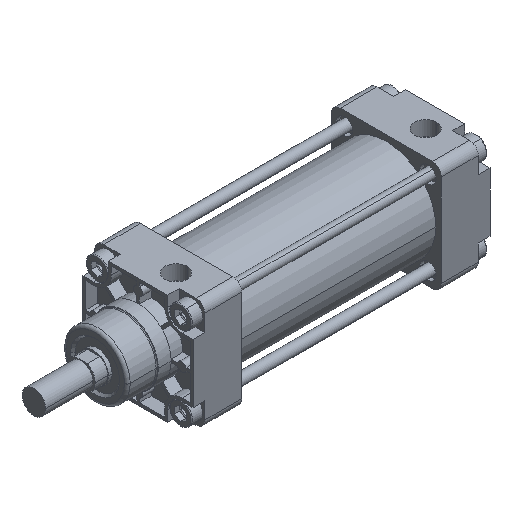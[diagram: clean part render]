
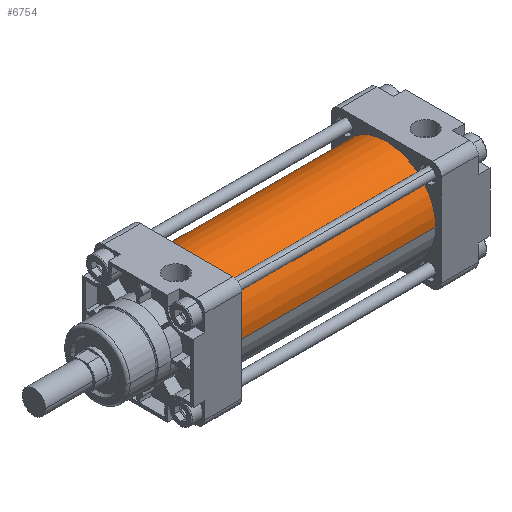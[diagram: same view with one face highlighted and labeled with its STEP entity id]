
A CAD part, isometric view. The second image highlights one B-rep face of the part: STEP entity #6754.
In plain terms, the highlighted cylindrical face has radius 33.5 mm (diameter 67 mm), a partial arc.
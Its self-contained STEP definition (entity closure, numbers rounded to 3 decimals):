
#6391=CARTESIAN_POINT('Vertex',(135.,-33.5,0.)) ;
#6393=CARTESIAN_POINT('Vertex',(135.,33.5,0.)) ;
#6396=CARTESIAN_POINT('Axis2P3D Location',(135.,0.,0.)) ;
#6724=CARTESIAN_POINT('Axis2P3D Location',(67.5,0.,0.)) ;
#6729=CARTESIAN_POINT('Line Origine',(67.5,33.5,0.)) ;
#6733=CARTESIAN_POINT('Vertex',(0.,33.5,0.)) ;
#6736=CARTESIAN_POINT('Axis2P3D Location',(0.,0.,0.)) ;
#6740=CARTESIAN_POINT('Vertex',(0.,-33.5,0.)) ;
#6743=CARTESIAN_POINT('Line Origine',(67.5,-33.5,0.)) ;
#6397=DIRECTION('Axis2P3D Direction',(1.,0.,0.)) ;
#6725=DIRECTION('Axis2P3D Direction',(1.,0.,0.)) ;
#6726=DIRECTION('Axis2P3D XDirection',(0.,1.,0.)) ;
#6730=DIRECTION('Vector Direction',(1.,0.,0.)) ;
#6737=DIRECTION('Axis2P3D Direction',(1.,0.,0.)) ;
#6744=DIRECTION('Vector Direction',(1.,0.,0.)) ;
#6398=AXIS2_PLACEMENT_3D('Circle Axis2P3D',#6396,#6397,$) ;
#6727=AXIS2_PLACEMENT_3D('Cylinder Axis2P3D',#6724,#6725,#6726) ;
#6738=AXIS2_PLACEMENT_3D('Circle Axis2P3D',#6736,#6737,$) ;
#6749=ORIENTED_EDGE('',*,*,#6735,.F.) ;
#6750=ORIENTED_EDGE('',*,*,#6742,.T.) ;
#6751=ORIENTED_EDGE('',*,*,#6747,.T.) ;
#6752=ORIENTED_EDGE('',*,*,#6400,.F.) ;
#6731=VECTOR('Line Direction',#6730,1.) ;
#6745=VECTOR('Line Direction',#6744,1.) ;
#6754=ADVANCED_FACE('PartBody',(#6753),#6728,.T.) ;
#6399=CIRCLE('generated circle',#6398,33.5) ;
#6739=CIRCLE('generated circle',#6738,33.5) ;
#6728=CYLINDRICAL_SURFACE('generated cylinder',#6727,33.5) ;
#6400=EDGE_CURVE('',#6394,#6392,#6399,.T.) ;
#6735=EDGE_CURVE('',#6734,#6394,#6732,.T.) ;
#6742=EDGE_CURVE('',#6734,#6741,#6739,.T.) ;
#6747=EDGE_CURVE('',#6741,#6392,#6746,.T.) ;
#6748=EDGE_LOOP('',(#6749,#6750,#6751,#6752)) ;
#6753=FACE_OUTER_BOUND('',#6748,.T.) ;
#6732=LINE('Line',#6729,#6731) ;
#6746=LINE('Line',#6743,#6745) ;
#6392=VERTEX_POINT('',#6391) ;
#6394=VERTEX_POINT('',#6393) ;
#6734=VERTEX_POINT('',#6733) ;
#6741=VERTEX_POINT('',#6740) ;
